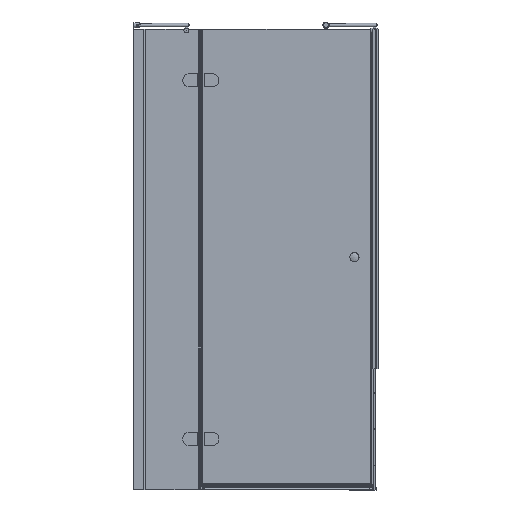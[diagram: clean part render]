
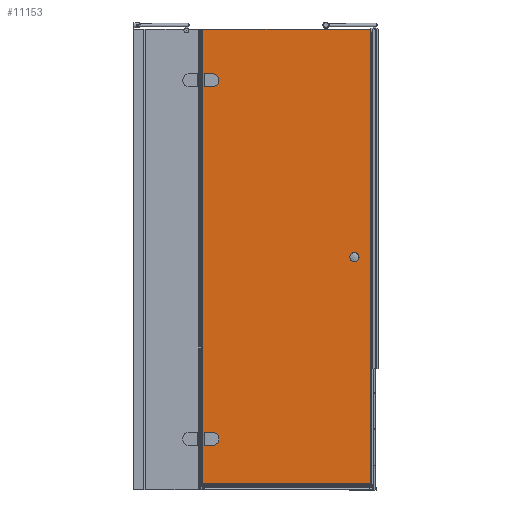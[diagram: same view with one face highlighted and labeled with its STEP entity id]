
A CAD part, left-side view. The second image highlights one B-rep face of the part: STEP entity #11153.
In plain terms, the highlighted planar face has unit normal (-1, 0, 0).
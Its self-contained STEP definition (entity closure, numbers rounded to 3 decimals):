
#97=LINE($,#15265,#1202);
#101=LINE($,#15273,#1206);
#105=LINE($,#15284,#1210);
#227=LINE($,#15599,#1332);
#231=LINE($,#15607,#1336);
#235=LINE($,#15618,#1340);
#1059=LINE($,#18470,#2164);
#1105=LINE($,#18681,#2210);
#1110=LINE($,#18699,#2215);
#1146=LINE($,#18771,#2251);
#1202=VECTOR($,#12273,52.);
#1206=VECTOR($,#12279,23.);
#1210=VECTOR($,#12291,23.);
#1332=VECTOR($,#12597,52.);
#1336=VECTOR($,#12603,23.);
#1340=VECTOR($,#12615,23.);
#2164=VECTOR($,#14699,1875.4);
#2210=VECTOR($,#14841,1875.4);
#2215=VECTOR($,#14864,700.);
#2251=VECTOR($,#14972,700.);
#2527=FACE_BOUND($,#3775,.T.);
#2528=FACE_BOUND($,#3776,.T.);
#2529=FACE_BOUND($,#3777,.T.);
#3775=EDGE_LOOP($,(#9386,#9387,#9388,#9389));
#3776=EDGE_LOOP($,(#9390,#9391,#9392,#9393));
#3777=EDGE_LOOP($,(#9394,#9395,#9396,#9397));
#3834=CIRCLE($,#11249,26.);
#3866=CIRCLE($,#11346,26.);
#4159=VERTEX_POINT($,#15263);
#4160=VERTEX_POINT($,#15264);
#4163=VERTEX_POINT($,#15272);
#4165=VERTEX_POINT($,#15278);
#4266=VERTEX_POINT($,#15597);
#4267=VERTEX_POINT($,#15598);
#4270=VERTEX_POINT($,#15606);
#4272=VERTEX_POINT($,#15612);
#4939=VERTEX_POINT($,#18467);
#4940=VERTEX_POINT($,#18469);
#5007=VERTEX_POINT($,#18664);
#5009=VERTEX_POINT($,#18679);
#5108=EDGE_CURVE($,#4159,#4160,#97,.T.);
#5112=EDGE_CURVE($,#4160,#4163,#101,.T.);
#5115=EDGE_CURVE($,#4163,#4165,#3834,.T.);
#5118=EDGE_CURVE($,#4165,#4159,#105,.T.);
#5270=EDGE_CURVE($,#4266,#4267,#227,.T.);
#5274=EDGE_CURVE($,#4267,#4270,#231,.T.);
#5277=EDGE_CURVE($,#4270,#4272,#3866,.T.);
#5280=EDGE_CURVE($,#4272,#4266,#235,.T.);
#6364=EDGE_CURVE($,#4939,#4940,#1059,.T.);
#6447=EDGE_CURVE($,#5007,#5009,#1105,.T.);
#6456=EDGE_CURVE($,#5007,#4939,#1110,.T.);
#6492=EDGE_CURVE($,#4940,#5009,#1146,.T.);
#9386=ORIENTED_EDGE($,*,*,#5108,.T.);
#9387=ORIENTED_EDGE($,*,*,#5112,.T.);
#9388=ORIENTED_EDGE($,*,*,#5115,.T.);
#9389=ORIENTED_EDGE($,*,*,#5118,.T.);
#9390=ORIENTED_EDGE($,*,*,#5270,.T.);
#9391=ORIENTED_EDGE($,*,*,#5274,.T.);
#9392=ORIENTED_EDGE($,*,*,#5277,.T.);
#9393=ORIENTED_EDGE($,*,*,#5280,.T.);
#9394=ORIENTED_EDGE($,*,*,#6456,.F.);
#9395=ORIENTED_EDGE($,*,*,#6447,.T.);
#9396=ORIENTED_EDGE($,*,*,#6492,.F.);
#9397=ORIENTED_EDGE($,*,*,#6364,.F.);
#9933=PLANE($,#12071);
#11153=ADVANCED_FACE($,(#2527,#2528,#2529),#9933,.T.);
#11249=AXIS2_PLACEMENT_3D($,#15279,#12284,#12285);
#11346=AXIS2_PLACEMENT_3D($,#15613,#12608,#12609);
#12071=AXIS2_PLACEMENT_3D($,#18770,#14970,#14971);
#12273=DIRECTION($,(0.,0.,1.));
#12279=DIRECTION($,(0.,-1.,0.));
#12284=DIRECTION('center_axis',(1.,0.,0.));
#12285=DIRECTION('ref_axis',(0.,0.,
-1.));
#12291=DIRECTION($,(0.,1.,0.));
#12597=DIRECTION($,(0.,0.,1.));
#12603=DIRECTION($,(0.,-1.,0.));
#12608=DIRECTION('center_axis',(1.,0.,0.));
#12609=DIRECTION('ref_axis',(0.,0.,
-1.));
#12615=DIRECTION($,(0.,1.,0.));
#14699=DIRECTION($,(0.,0.,1.));
#14841=DIRECTION($,(0.,0.,1.));
#14864=DIRECTION($,(0.,1.,0.));
#14970=DIRECTION('center_axis',(-1.,0.,0.));
#14971=DIRECTION('ref_axis',(0.,-1.,0.));
#14972=DIRECTION($,(0.,-1.,0.));
#15263=CARTESIAN_POINT('',(1187.019,841.956,1149.944));
#15264=CARTESIAN_POINT('',(1187.019,841.956,1201.944));
#15265=CARTESIAN_POINT($,(1187.019,841.956,353.944));
#15272=CARTESIAN_POINT('',(1187.019,818.956,1201.944));
#15273=CARTESIAN_POINT($,(1187.019,840.956,1201.944));
#15278=CARTESIAN_POINT('',(1187.019,818.956,1149.944));
#15279=CARTESIAN_POINT('Origin',(1187.019,818.956,1175.944));
#15284=CARTESIAN_POINT($,(1187.019,852.456,1149.944));
#15597=CARTESIAN_POINT('',(1187.019,841.956,-330.056));
#15598=CARTESIAN_POINT('',(1187.019,841.956,-278.056));
#15599=CARTESIAN_POINT($,(1187.019,841.956,-386.056));
#15606=CARTESIAN_POINT('',(1187.019,818.956,-278.056));
#15607=CARTESIAN_POINT($,(1187.019,840.956,-278.056));
#15612=CARTESIAN_POINT('',(1187.019,818.956,-330.056));
#15613=CARTESIAN_POINT('Origin',(1187.019,818.956,-304.056));
#15618=CARTESIAN_POINT($,(1187.019,852.456,-330.056));
#18467=CARTESIAN_POINT('',(1187.019,862.956,-489.456));
#18469=CARTESIAN_POINT('',(1187.019,862.956,1385.944));
#18470=CARTESIAN_POINT($,(1187.019,862.956,-494.056));
#18664=CARTESIAN_POINT('',(1187.019,162.956,-489.456));
#18679=CARTESIAN_POINT('',(1187.019,162.956,1385.944));
#18681=CARTESIAN_POINT($,(1187.019,162.956,-494.056));
#18699=CARTESIAN_POINT($,(1187.019,152.956,-489.456));
#18770=CARTESIAN_POINT('Origin',(1187.019,862.956,-494.056));
#18771=CARTESIAN_POINT($,(1187.019,862.956,1385.944));
